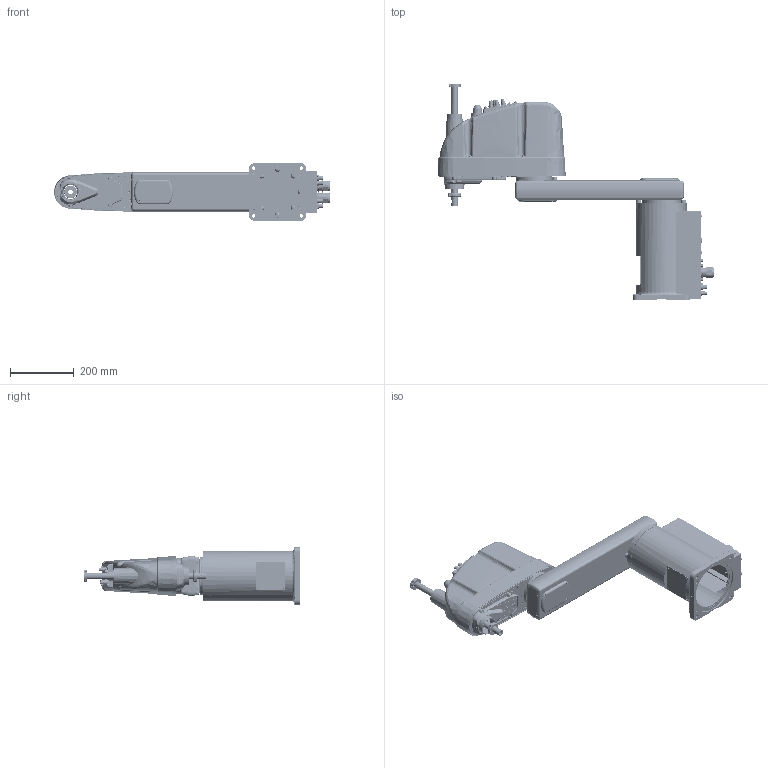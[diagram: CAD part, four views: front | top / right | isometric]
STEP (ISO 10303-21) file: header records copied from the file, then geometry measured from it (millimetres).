
FILE_DESCRIPTION((''),'2;1');
FILE_NAME('C_GS651S_ASM','2008-02-14T',('0179539'),(''),'PRO/ENGINEER BY PARAMETRIC TECHNOLOGY CORPORATION, 2004090','PRO/ENGINEER BY PARAMETRIC TECHNOLOGY CORPORATION, 2004090','');
FILE_SCHEMA(('CONFIG_CONTROL_DESIGN'));
Length unit declared in the file: millimetre
Products named in the file (5): GSBASE1; GSARM1_65; GSBODY; ZS_1; C_GS651S_ASM
Assembly tree (4 placements, depth 2):
  C_GS651S_ASM
    GSBASE1
    GSARM1_65
    GSBODY
    ZS_1
Bounding box: 867.27 x 681 x 180 mm (x, y, z)
Volume: 5237986.8 mm3; surface area: 1659887.7 mm2
Topology: 5 solids, 5 shells, 6888 faces, 17719 edges, 11405 vertices
Faces by surface type: plane 4423, cylinder 1342, bspline 454, cone 427, torus 195, extrusion 25, sphere 22
Entity records: 241335 total; most frequent: CARTESIAN_POINT 75180, ORIENTED_EDGE 35282, DIRECTION 32685, EDGE_CURVE 17641, VECTOR 12541, LINE 12516, VERTEX_POINT 11405, AXIS2_PLACEMENT_3D 10072
